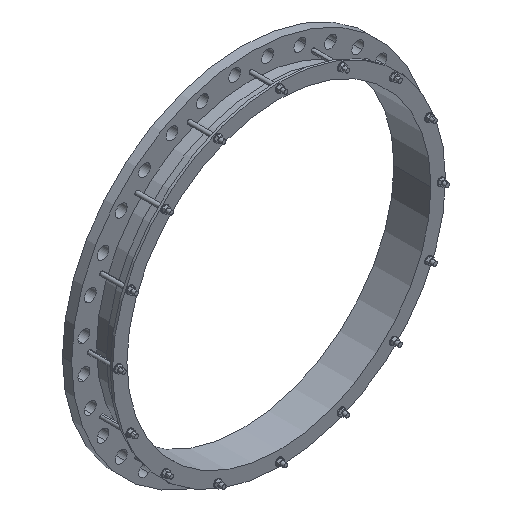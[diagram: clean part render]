
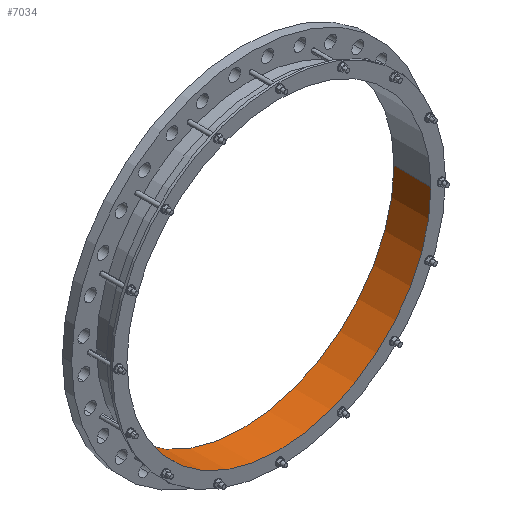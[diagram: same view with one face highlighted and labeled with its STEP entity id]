
A CAD part, isometric view. The second image highlights one B-rep face of the part: STEP entity #7034.
In plain terms, the highlighted cylindrical face has radius 628.75 mm (diameter 1257.5 mm), a partial arc.
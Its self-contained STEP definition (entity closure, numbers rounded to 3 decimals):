
#7=CARTESIAN_POINT('',(0.,38.,0.));
#8=DIRECTION('',(0.,1.,0.));
#9=DIRECTION('',(1.,0.,0.));
#10=AXIS2_PLACEMENT_3D('',#7,#8,#9);
#1917=CARTESIAN_POINT('',(0.,-115.,0.));
#1918=DIRECTION('',(0.,1.,0.));
#1919=DIRECTION('',(1.,0.,0.));
#1920=AXIS2_PLACEMENT_3D('',#1917,#1918,#1919);
#1922=DIRECTION('',(0.,1.,0.));
#1923=VECTOR('',#1922,153.);
#1924=CARTESIAN_POINT('',(628.75,-115.,0.));
#1925=LINE('',#1924,#1923);
#1926=DIRECTION('',(0.,1.,0.));
#1927=VECTOR('',#1926,153.);
#1928=CARTESIAN_POINT('',(-628.75,-115.,0.));
#1929=LINE('',#1928,#1927);
#4876=CARTESIAN_POINT('',(628.75,-115.,0.));
#4877=CARTESIAN_POINT('',(628.75,38.,0.));
#4878=VERTEX_POINT('',#4876);
#4879=VERTEX_POINT('',#4877);
#4888=CARTESIAN_POINT('',(-628.75,-115.,0.));
#4889=CARTESIAN_POINT('',(-628.75,38.,0.));
#4890=VERTEX_POINT('',#4888);
#4891=VERTEX_POINT('',#4889);
#7021=CARTESIAN_POINT('',(0.,-122.65,0.));
#7022=DIRECTION('',(0.,1.,0.));
#7023=DIRECTION('',(-1.,0.,0.));
#7024=AXIS2_PLACEMENT_3D('',#7021,#7022,#7023);
#7025=CYLINDRICAL_SURFACE('',#7024,628.75);
#7027=ORIENTED_EDGE('',*,*,#7026,.F.);
#7028=ORIENTED_EDGE('',*,*,#6920,.T.);
#7030=ORIENTED_EDGE('',*,*,#7029,.T.);
#7031=ORIENTED_EDGE('',*,*,#5981,.F.);
#7032=EDGE_LOOP('',(#7027,#7028,#7030,#7031));
#7033=FACE_OUTER_BOUND('',#7032,.F.);
#7034=ADVANCED_FACE('',(#7033),#7025,.F.);
#11=CIRCLE('',#10,628.75);
#1921=CIRCLE('',#1920,628.75);
#5981=EDGE_CURVE('',#4879,#4891,#11,.T.);
#6920=EDGE_CURVE('',#4878,#4890,#1921,.T.);
#7026=EDGE_CURVE('',#4878,#4879,#1925,.T.);
#7029=EDGE_CURVE('',#4890,#4891,#1929,.T.);
